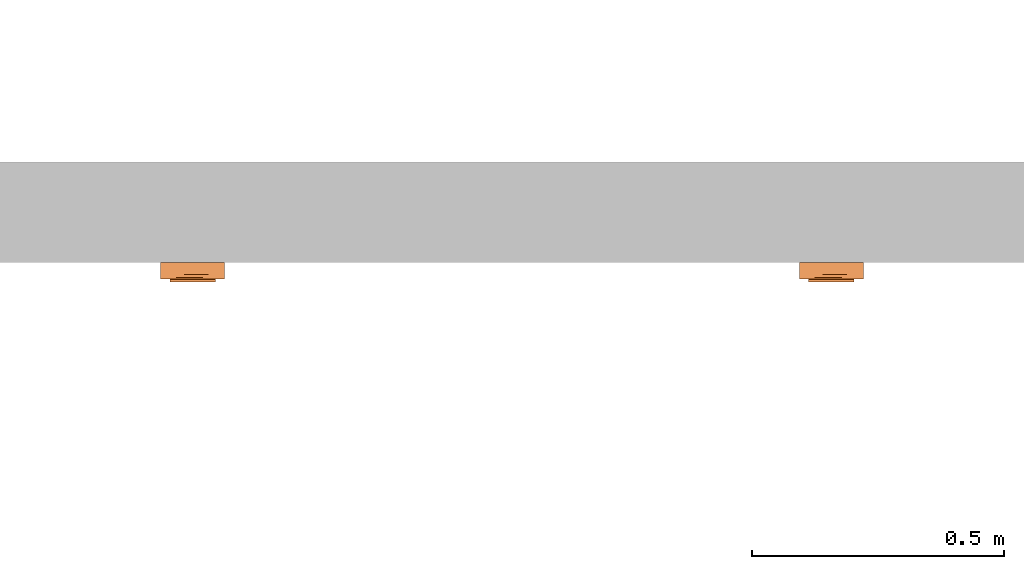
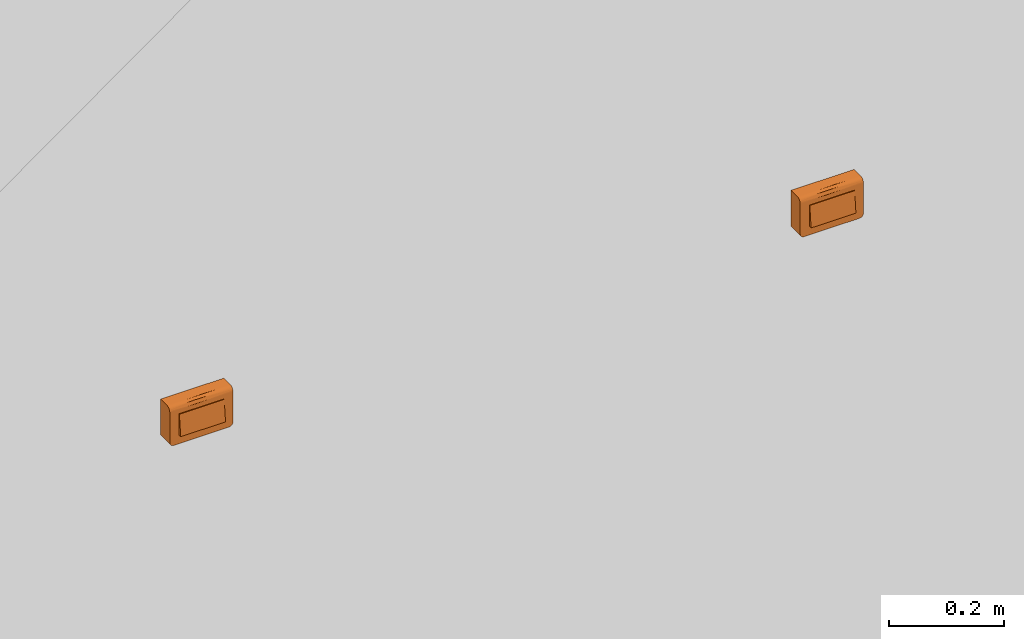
# One storey, part 136 of 197: 2 proxies.
"""IFC2X3 building model written with IfcOpenShell, lengths in metres."""

from ifc_helpers import new_model, entity, si_unit, converted_unit, direction, frame, origin, place, context, subcontext, project, spatial, faceted_brep, source, transform, mapped, material, material_list, type_object, type_shapes, element, save


model = new_model("IFC2X3")

# Units and contexts
model_context = context("Model", 3, precision=1e-05, world=origin(), true_north=direction((6.123031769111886e-17, 1.0)))
body_context = subcontext(model_context, "Body", "Model", "MODEL_VIEW")
ifc_project = project(units=[si_unit("LENGTHUNIT", "METRE"), converted_unit("PLANEANGLEUNIT", "DEGREE", entity("IfcPlaneAngleMeasure", 0.017453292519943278), si_unit("PLANEANGLEUNIT", "RADIAN"), dimensions=[0, 0, 0, 0, 0, 0, 0]), si_unit("AREAUNIT", "SQUARE_METRE")], contexts=[model_context])

# Site, building, storey
site_placement = place(None, origin())
site = spatial("IfcSite", under=ifc_project, at=site_placement, Name="Default", CompositionType="ELEMENT")
building_placement = place(site_placement, origin())
building = spatial("IfcBuilding", under=site, at=building_placement, CompositionType="ELEMENT")
storey_placement = place(building_placement, origin())
storey = spatial("IfcBuildingStorey", under=building, at=storey_placement, Name="Niveau 0", CompositionType="ELEMENT", Elevation=0.0)

# Proxies
ifc_material_1 = material(Name="BETCE-DOIGT-BLANC")
ifc_material_2 = material(Name="BETCE-CADRE-BLANC")
ifc_material_3 = material(Name="BETCE-ENJOLIVEUR-BLANC")
ifc_material_list = material_list([ifc_material_1, ifc_material_2, ifc_material_3])
building_element_proxy_type_1 = type_object("IfcBuildingElementProxyType", Name="Tableau commande 1x4 modules saillie:4 BP", PredefinedType="NOTDEFINED", material=ifc_material_list)
shared_shape_1 = source(origin(), body_context, "Body", "Brep", [
    faceted_brep([(-0.04499999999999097, -0.03350000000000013, 0.022499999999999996), (-0.04499999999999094, -0.038000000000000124, -0.022500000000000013), (-0.022500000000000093, -0.03799999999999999, -0.02249999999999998), (-0.02250000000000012, -0.0335, 0.022499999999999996), (-0.04499999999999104, -0.02299999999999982, -0.022500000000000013), (-0.04499999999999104, -0.02299999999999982, 0.022499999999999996), (-0.022500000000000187, -0.022999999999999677, 0.022499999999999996), (-0.022500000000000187, -0.022999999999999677, -0.022500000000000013)], [[[0, 1, 2, 3]], [[4, 5, 6, 7]], [[5, 4, 1, 0]], [[6, 5, 0, 3]], [[7, 6, 3, 2]], [[4, 7, 2, 1]]]),
    faceted_brep([(0.02250000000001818, -0.03349999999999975, 0.022499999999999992), (0.02250000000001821, -0.03799999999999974, -0.022500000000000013), (0.04500000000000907, -0.03799999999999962, -0.02250000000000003), (0.04500000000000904, -0.03349999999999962, 0.022499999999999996), (0.022500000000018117, -0.02299999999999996, -0.022500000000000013), (0.022500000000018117, -0.02299999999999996, 0.022499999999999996), (0.04500000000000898, -0.022999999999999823, 0.022499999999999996), (0.04500000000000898, -0.022999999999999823, -0.022500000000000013)], [[[0, 1, 2, 3]], [[4, 5, 6, 7]], [[5, 4, 1, 0]], [[6, 5, 0, 3]], [[7, 6, 3, 2]], [[4, 7, 2, 1]]]),
    faceted_brep([(0.0, -0.03349999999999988, 0.022499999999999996), (0.0, -0.03799999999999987, -0.022500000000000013), (0.022499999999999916, -0.03799999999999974, -0.022500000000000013), (0.022499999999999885, -0.03349999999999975, 0.022499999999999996), (0.0, -0.02299999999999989, -0.022500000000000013), (0.0, -0.02299999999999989, 0.022499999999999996), (0.022499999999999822, -0.02299999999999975, 0.022499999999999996), (0.022499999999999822, -0.02299999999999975, -0.022500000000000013)], [[[0, 1, 2, 3]], [[4, 5, 6, 7]], [[5, 4, 1, 0]], [[6, 5, 0, 3]], [[7, 6, 3, 2]], [[4, 7, 2, 1]]]),
    faceted_brep([(0.05550000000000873, -0.02299999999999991, -0.041000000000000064), (0.05757055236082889, -0.0229999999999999, -0.04072740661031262), (0.05950000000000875, -0.022999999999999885, -0.03992820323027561), (0.06115685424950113, -0.022999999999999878, -0.03865685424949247), (0.06242820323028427, -0.022999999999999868, -0.03700000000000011), (0.06322740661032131, -0.022999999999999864, -0.03507055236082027), (0.063500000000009, -0.02299999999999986, -0.033000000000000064), (0.06350000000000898, -0.02299999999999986, 0.04092306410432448), (-0.06349999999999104, -0.023000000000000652, 0.04092306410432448), (-0.06349999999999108, -0.023000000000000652, -0.032999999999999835), (-0.06322740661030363, -0.023000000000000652, -0.03507055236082), (-0.06242820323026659, -0.02300000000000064, -0.03699999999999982), (-0.06115685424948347, -0.023000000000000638, -0.0386568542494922), (-0.05949999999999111, -0.023000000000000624, -0.03992820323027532), (-0.05757055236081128, -0.023000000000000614, -0.040727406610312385), (-0.05549999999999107, -0.0230000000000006, -0.040999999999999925), (-0.05549999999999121, 0.0, -0.04099999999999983), (-0.05757055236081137, 0.0, -0.040727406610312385), (-0.05949999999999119, 0.0, -0.03992820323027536), (-0.061156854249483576, 0.0, -0.03865685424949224), (-0.06242820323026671, 0.0, -0.03699999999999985), (-0.06322740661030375, 0.0, -0.03507055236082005), (-0.06349999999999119, 0.0, -0.032999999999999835), (-0.06349999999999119, 0.0, 0.04092306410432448), (0.06350000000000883, 0.0, 0.04092306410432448), (0.06350000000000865, 0.0, -0.033), (0.0632274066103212, 0.0, -0.03507055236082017), (0.062428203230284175, 0.0, -0.037000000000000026), (0.06115685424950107, 0.0, -0.0386568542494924), (0.059500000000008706, 0.0, -0.039928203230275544), (0.05757055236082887, 0.0, -0.040727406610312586), (0.055500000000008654, 0.0, -0.040999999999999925)], [[[0, 1, 2, 3, 4, 5, 6, 7, 8, 9, 10, 11, 12, 13, 14, 15]], [[16, 17, 18, 19, 20, 21, 22, 23, 24, 25, 26, 27, 28, 29, 30, 31]], [[9, 8, 23, 22]], [[0, 15, 16, 31]], [[7, 6, 25, 24]], [[8, 7, 24, 23]], [[25, 6, 5, 26]], [[26, 5, 4, 27]], [[27, 4, 3, 28]], [[29, 2, 1, 30]], [[30, 1, 0, 31]], [[28, 3, 2, 29]], [[17, 16, 15, 14]], [[18, 17, 14, 13]], [[19, 18, 13, 12]], [[20, 19, 12, 11]], [[21, 20, 11, 10]], [[22, 21, 10, 9]]]),
    faceted_brep([(-0.022500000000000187, -0.02299999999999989, -0.022500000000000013), (-0.022500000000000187, -0.02299999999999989, 0.022499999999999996), (0.0, -0.02299999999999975, 0.022499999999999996), (0.0, -0.02299999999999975, -0.022500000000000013), (-0.022500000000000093, -0.03799999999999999, -0.0225), (-0.02250000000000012, -0.0335, 0.022499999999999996), (0.0, -0.03349999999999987, 0.022499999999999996), (0.0, -0.037999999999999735, -0.022500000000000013)], [[[0, 1, 2, 3]], [[1, 0, 4, 5]], [[2, 1, 5, 6]], [[3, 2, 6, 7]], [[0, 3, 7, 4]], [[5, 4, 7, 6]]]),
    faceted_brep([(0.06350000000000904, -0.031999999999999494, -0.03299999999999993), (0.06350000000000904, -0.031999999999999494, 0.0319999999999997), (0.04500000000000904, -0.031999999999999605, -0.022500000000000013), (0.05550000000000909, -0.03199999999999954, -0.040999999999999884), (0.05757055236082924, -0.03199999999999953, -0.040727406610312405), (0.05950000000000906, -0.03199999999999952, -0.039928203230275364), (0.06115685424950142, -0.03199999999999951, -0.038656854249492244), (0.06322740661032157, -0.031999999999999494, -0.03507055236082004), (0.04500000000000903, -0.031999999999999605, 0.022499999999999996), (-0.04499999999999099, -0.03200000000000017, 0.022499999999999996), (-0.011124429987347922, -0.032000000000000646, 0.031999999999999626), (-0.06349999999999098, -0.032000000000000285, 0.0319999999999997), (-0.04499999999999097, -0.03200000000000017, -0.022500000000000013), (-0.06349999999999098, -0.032000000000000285, -0.032999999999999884), (-0.05549999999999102, -0.03200000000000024, -0.040999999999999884), (-0.057570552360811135, -0.032000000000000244, -0.04072740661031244), (-0.05949999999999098, -0.03200000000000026, -0.0399282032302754), (-0.061156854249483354, -0.032000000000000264, -0.03865685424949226), (-0.06322740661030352, -0.03200000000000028, -0.03507055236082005), (-0.06242820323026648, -0.03200000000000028, -0.03699999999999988), (0.06242820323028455, -0.0319999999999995, -0.03699999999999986), (-0.06349999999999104, -0.023000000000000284, -0.032999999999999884), (-0.06349999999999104, -0.023000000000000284, 0.041000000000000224), (-0.04499999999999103, -0.023000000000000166, 0.022499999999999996), (-0.04499999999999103, -0.023000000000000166, -0.022500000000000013), (-0.05549999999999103, -0.023000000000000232, -0.040999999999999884), (-0.0575705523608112, -0.023000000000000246, -0.04072740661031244), (-0.059499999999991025, -0.023000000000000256, -0.0399282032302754), (-0.06322740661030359, -0.02300000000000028, -0.03507055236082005), (0.04500000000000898, -0.022999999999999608, 0.022499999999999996), (0.011124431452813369, -0.02299999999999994, 0.041000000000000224), (0.06350000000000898, -0.022999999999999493, 0.041000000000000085), (0.06350000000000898, -0.022999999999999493, -0.032999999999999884), (0.04500000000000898, -0.022999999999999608, -0.022500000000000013), (0.055500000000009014, -0.02299999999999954, -0.040999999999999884), (0.05757055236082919, -0.02299999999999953, -0.040727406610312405), (0.059500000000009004, -0.022999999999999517, -0.039928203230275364), (0.06322740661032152, -0.022999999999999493, -0.03507055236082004), (0.061156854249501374, -0.022999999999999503, -0.038656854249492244), (0.06242820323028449, -0.022999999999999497, -0.03699999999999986), (-0.0611568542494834, -0.023000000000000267, -0.03865685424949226), (-0.062428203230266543, -0.023000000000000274, -0.03699999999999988), (0.063500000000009, -0.02532937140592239, 0.04069333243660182), (0.06350000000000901, -0.027499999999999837, 0.039794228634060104), (0.06350000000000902, -0.029363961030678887, 0.03836396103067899), (0.06350000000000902, -0.030794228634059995, 0.03649999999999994), (0.06350000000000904, -0.03169333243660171, 0.03432937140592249), (-0.06349999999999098, -0.03169333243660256, 0.034329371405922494), (-0.063499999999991, -0.030794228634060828, 0.03649999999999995), (-0.063499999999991, -0.029363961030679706, 0.03836396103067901), (-0.06349999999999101, -0.027500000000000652, 0.039794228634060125), (-0.06349999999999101, -0.025329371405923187, 0.04069333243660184), (-0.010857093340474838, -0.02912089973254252, 0.03859807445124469)], [[[0, 1, 2]], [[3, 0, 2]], [[0, 3, 4]], [[0, 4, 5]], [[5, 6, 0]], [[7, 0, 6]], [[2, 1, 8]], [[1, 9, 8]], [[9, 1, 10]], [[9, 10, 11]], [[12, 9, 11]], [[13, 12, 11]], [[14, 12, 13]], [[14, 13, 15]], [[16, 15, 13]], [[13, 17, 16]], [[17, 13, 18]], [[17, 18, 19]], [[12, 14, 3]], [[2, 12, 3]], [[20, 7, 6]], [[21, 22, 23]], [[24, 21, 23]], [[25, 21, 24]], [[21, 25, 26]], [[21, 26, 27]], [[28, 21, 27]], [[22, 29, 23]], [[29, 22, 30]], [[29, 30, 31]], [[32, 29, 31]], [[33, 29, 32]], [[34, 33, 32]], [[34, 32, 35]], [[36, 35, 32]], [[36, 32, 37]], [[37, 38, 36]], [[38, 37, 39]], [[33, 34, 25]], [[24, 33, 25]], [[27, 40, 28]], [[41, 28, 40]], [[1, 0, 32, 31, 42, 43, 44, 45, 46]], [[37, 32, 0, 7]], [[39, 37, 7, 20]], [[38, 39, 20, 6]], [[36, 38, 6, 5]], [[35, 36, 5, 4]], [[34, 35, 4, 3]], [[25, 34, 3, 14]], [[26, 25, 14, 15]], [[27, 26, 15, 16]], [[40, 27, 16, 17]], [[41, 40, 17, 19]], [[28, 41, 19, 18]], [[21, 28, 18, 13]], [[22, 21, 13, 11, 47, 48, 49, 50, 51]], [[52, 10, 45]], [[47, 11, 10]], [[1, 46, 10]], [[44, 52, 45]], [[46, 45, 10]], [[50, 52, 51]], [[48, 47, 10]], [[30, 52, 43]], [[48, 52, 49]], [[42, 31, 30]], [[30, 22, 51]], [[48, 10, 52]], [[30, 43, 42]], [[44, 43, 52]], [[52, 50, 49]], [[52, 30, 51]], [[24, 23, 9, 12]], [[33, 24, 12, 2]], [[29, 33, 2, 8]], [[23, 29, 8, 9]]]),
])
type_shapes(building_element_proxy_type_1, [shared_shape_1])
proxy_1_placement = place(storey_placement, frame((-384.79277966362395, 116.01635778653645, 1.1)))
element("IfcBuildingElementProxy", 1, at=proxy_1_placement, inside=storey, type_object=building_element_proxy_type_1, material=ifc_material_list, Name="Tableau commande 1x4 modules saillie:4 BP", ObjectType="Tableau commande 1x4 modules saillie:4 BP", context=body_context, shape_type="MappedRepresentation", body=[
    mapped(shared_shape_1, transform((0.0, 0.0, 0.0), scale=1.0)),
])
building_element_proxy_type_2 = type_object("IfcBuildingElementProxyType", Name="Tableau commande 1x4 modules saillie:4 SA", PredefinedType="NOTDEFINED", material=ifc_material_list)
shared_shape_2 = source(origin(), body_context, "Body", "Brep", [
    faceted_brep([(-0.04499999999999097, -0.03350000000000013, 0.022499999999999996), (-0.04499999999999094, -0.038000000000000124, -0.022500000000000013), (-0.022500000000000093, -0.03799999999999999, -0.02249999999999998), (-0.02250000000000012, -0.0335, 0.022499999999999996), (-0.04499999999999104, -0.02299999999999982, -0.022500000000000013), (-0.04499999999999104, -0.02299999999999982, 0.022499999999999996), (-0.022500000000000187, -0.022999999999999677, 0.022499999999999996), (-0.022500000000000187, -0.022999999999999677, -0.022500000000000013)], [[[0, 1, 2, 3]], [[4, 5, 6, 7]], [[5, 4, 1, 0]], [[6, 5, 0, 3]], [[7, 6, 3, 2]], [[4, 7, 2, 1]]]),
    faceted_brep([(0.02250000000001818, -0.03349999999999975, 0.022499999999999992), (0.02250000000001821, -0.03799999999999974, -0.022500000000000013), (0.04500000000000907, -0.03799999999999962, -0.02250000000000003), (0.04500000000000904, -0.03349999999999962, 0.022499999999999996), (0.022500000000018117, -0.02299999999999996, -0.022500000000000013), (0.022500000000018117, -0.02299999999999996, 0.022499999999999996), (0.04500000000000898, -0.022999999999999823, 0.022499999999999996), (0.04500000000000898, -0.022999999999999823, -0.022500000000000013)], [[[0, 1, 2, 3]], [[4, 5, 6, 7]], [[5, 4, 1, 0]], [[6, 5, 0, 3]], [[7, 6, 3, 2]], [[4, 7, 2, 1]]]),
    faceted_brep([(0.0, -0.03349999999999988, 0.022499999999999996), (0.0, -0.03799999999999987, -0.022500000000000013), (0.022499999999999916, -0.03799999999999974, -0.022500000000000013), (0.022499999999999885, -0.03349999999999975, 0.022499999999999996), (0.0, -0.02299999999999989, -0.022500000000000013), (0.0, -0.02299999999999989, 0.022499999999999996), (0.022499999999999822, -0.02299999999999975, 0.022499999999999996), (0.022499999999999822, -0.02299999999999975, -0.022500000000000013)], [[[0, 1, 2, 3]], [[4, 5, 6, 7]], [[5, 4, 1, 0]], [[6, 5, 0, 3]], [[7, 6, 3, 2]], [[4, 7, 2, 1]]]),
    faceted_brep([(0.05550000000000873, -0.02299999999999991, -0.041000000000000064), (0.05757055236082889, -0.0229999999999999, -0.04072740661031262), (0.05950000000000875, -0.022999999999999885, -0.03992820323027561), (0.06115685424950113, -0.022999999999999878, -0.03865685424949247), (0.06242820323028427, -0.022999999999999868, -0.03700000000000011), (0.06322740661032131, -0.022999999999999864, -0.03507055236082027), (0.063500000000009, -0.02299999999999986, -0.033000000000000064), (0.06350000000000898, -0.02299999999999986, 0.04092306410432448), (-0.06349999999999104, -0.023000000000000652, 0.04092306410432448), (-0.06349999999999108, -0.023000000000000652, -0.032999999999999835), (-0.06322740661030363, -0.023000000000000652, -0.03507055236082), (-0.06242820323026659, -0.02300000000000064, -0.03699999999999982), (-0.06115685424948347, -0.023000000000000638, -0.0386568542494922), (-0.05949999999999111, -0.023000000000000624, -0.03992820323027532), (-0.05757055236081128, -0.023000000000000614, -0.040727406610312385), (-0.05549999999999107, -0.0230000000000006, -0.040999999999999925), (-0.05549999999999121, 0.0, -0.04099999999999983), (-0.05757055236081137, 0.0, -0.040727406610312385), (-0.05949999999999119, 0.0, -0.03992820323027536), (-0.061156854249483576, 0.0, -0.03865685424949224), (-0.06242820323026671, 0.0, -0.03699999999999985), (-0.06322740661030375, 0.0, -0.03507055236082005), (-0.06349999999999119, 0.0, -0.032999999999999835), (-0.06349999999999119, 0.0, 0.04092306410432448), (0.06350000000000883, 0.0, 0.04092306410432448), (0.06350000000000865, 0.0, -0.033), (0.0632274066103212, 0.0, -0.03507055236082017), (0.062428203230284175, 0.0, -0.037000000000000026), (0.06115685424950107, 0.0, -0.0386568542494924), (0.059500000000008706, 0.0, -0.039928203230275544), (0.05757055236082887, 0.0, -0.040727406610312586), (0.055500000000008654, 0.0, -0.040999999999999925)], [[[0, 1, 2, 3, 4, 5, 6, 7, 8, 9, 10, 11, 12, 13, 14, 15]], [[16, 17, 18, 19, 20, 21, 22, 23, 24, 25, 26, 27, 28, 29, 30, 31]], [[9, 8, 23, 22]], [[0, 15, 16, 31]], [[7, 6, 25, 24]], [[8, 7, 24, 23]], [[25, 6, 5, 26]], [[26, 5, 4, 27]], [[27, 4, 3, 28]], [[29, 2, 1, 30]], [[30, 1, 0, 31]], [[28, 3, 2, 29]], [[17, 16, 15, 14]], [[18, 17, 14, 13]], [[19, 18, 13, 12]], [[20, 19, 12, 11]], [[21, 20, 11, 10]], [[22, 21, 10, 9]]]),
    faceted_brep([(-0.022500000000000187, -0.02299999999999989, -0.022500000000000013), (-0.022500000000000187, -0.02299999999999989, 0.022499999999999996), (0.0, -0.02299999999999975, 0.022499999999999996), (0.0, -0.02299999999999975, -0.022500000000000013), (-0.022500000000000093, -0.03799999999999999, -0.0225), (-0.02250000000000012, -0.0335, 0.022499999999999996), (0.0, -0.03349999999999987, 0.022499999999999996), (0.0, -0.037999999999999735, -0.022500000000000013)], [[[0, 1, 2, 3]], [[1, 0, 4, 5]], [[2, 1, 5, 6]], [[3, 2, 6, 7]], [[0, 3, 7, 4]], [[5, 4, 7, 6]]]),
    faceted_brep([(0.06350000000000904, -0.031999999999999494, -0.03299999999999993), (0.06350000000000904, -0.031999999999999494, 0.0319999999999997), (0.04500000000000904, -0.031999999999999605, -0.022500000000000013), (0.05550000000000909, -0.03199999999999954, -0.040999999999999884), (0.05757055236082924, -0.03199999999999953, -0.040727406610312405), (0.05950000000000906, -0.03199999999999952, -0.039928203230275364), (0.06115685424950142, -0.03199999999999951, -0.038656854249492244), (0.06322740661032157, -0.031999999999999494, -0.03507055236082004), (0.04500000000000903, -0.031999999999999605, 0.022499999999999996), (-0.04499999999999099, -0.03200000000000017, 0.022499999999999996), (-0.011124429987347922, -0.032000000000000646, 0.031999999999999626), (-0.06349999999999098, -0.032000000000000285, 0.0319999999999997), (-0.04499999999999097, -0.03200000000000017, -0.022500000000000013), (-0.06349999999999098, -0.032000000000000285, -0.032999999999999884), (-0.05549999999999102, -0.03200000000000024, -0.040999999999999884), (-0.057570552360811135, -0.032000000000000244, -0.04072740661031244), (-0.05949999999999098, -0.03200000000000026, -0.0399282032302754), (-0.061156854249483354, -0.032000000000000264, -0.03865685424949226), (-0.06322740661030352, -0.03200000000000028, -0.03507055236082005), (-0.06242820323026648, -0.03200000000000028, -0.03699999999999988), (0.06242820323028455, -0.0319999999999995, -0.03699999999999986), (-0.06349999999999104, -0.023000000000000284, -0.032999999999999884), (-0.06349999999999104, -0.023000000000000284, 0.041000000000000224), (-0.04499999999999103, -0.023000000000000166, 0.022499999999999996), (-0.04499999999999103, -0.023000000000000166, -0.022500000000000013), (-0.05549999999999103, -0.023000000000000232, -0.040999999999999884), (-0.0575705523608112, -0.023000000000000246, -0.04072740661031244), (-0.059499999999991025, -0.023000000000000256, -0.0399282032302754), (-0.06322740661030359, -0.02300000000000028, -0.03507055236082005), (0.04500000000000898, -0.022999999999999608, 0.022499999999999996), (0.011124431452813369, -0.02299999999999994, 0.041000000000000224), (0.06350000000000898, -0.022999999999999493, 0.041000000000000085), (0.06350000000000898, -0.022999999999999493, -0.032999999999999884), (0.04500000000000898, -0.022999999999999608, -0.022500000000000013), (0.055500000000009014, -0.02299999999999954, -0.040999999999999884), (0.05757055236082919, -0.02299999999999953, -0.040727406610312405), (0.059500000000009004, -0.022999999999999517, -0.039928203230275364), (0.06322740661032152, -0.022999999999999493, -0.03507055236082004), (0.061156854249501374, -0.022999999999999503, -0.038656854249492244), (0.06242820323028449, -0.022999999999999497, -0.03699999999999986), (-0.0611568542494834, -0.023000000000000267, -0.03865685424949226), (-0.062428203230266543, -0.023000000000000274, -0.03699999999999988), (0.063500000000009, -0.02532937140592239, 0.04069333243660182), (0.06350000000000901, -0.027499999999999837, 0.039794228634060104), (0.06350000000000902, -0.029363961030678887, 0.03836396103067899), (0.06350000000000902, -0.030794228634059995, 0.03649999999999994), (0.06350000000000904, -0.03169333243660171, 0.03432937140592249), (-0.06349999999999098, -0.03169333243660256, 0.034329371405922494), (-0.063499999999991, -0.030794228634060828, 0.03649999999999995), (-0.063499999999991, -0.029363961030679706, 0.03836396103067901), (-0.06349999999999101, -0.027500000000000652, 0.039794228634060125), (-0.06349999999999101, -0.025329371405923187, 0.04069333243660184), (-0.010857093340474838, -0.02912089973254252, 0.03859807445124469)], [[[0, 1, 2]], [[3, 0, 2]], [[0, 3, 4]], [[0, 4, 5]], [[5, 6, 0]], [[7, 0, 6]], [[2, 1, 8]], [[1, 9, 8]], [[9, 1, 10]], [[9, 10, 11]], [[12, 9, 11]], [[13, 12, 11]], [[14, 12, 13]], [[14, 13, 15]], [[16, 15, 13]], [[13, 17, 16]], [[17, 13, 18]], [[17, 18, 19]], [[12, 14, 3]], [[2, 12, 3]], [[20, 7, 6]], [[21, 22, 23]], [[24, 21, 23]], [[25, 21, 24]], [[21, 25, 26]], [[21, 26, 27]], [[28, 21, 27]], [[22, 29, 23]], [[29, 22, 30]], [[29, 30, 31]], [[32, 29, 31]], [[33, 29, 32]], [[34, 33, 32]], [[34, 32, 35]], [[36, 35, 32]], [[36, 32, 37]], [[37, 38, 36]], [[38, 37, 39]], [[33, 34, 25]], [[24, 33, 25]], [[27, 40, 28]], [[41, 28, 40]], [[1, 0, 32, 31, 42, 43, 44, 45, 46]], [[37, 32, 0, 7]], [[39, 37, 7, 20]], [[38, 39, 20, 6]], [[36, 38, 6, 5]], [[35, 36, 5, 4]], [[34, 35, 4, 3]], [[25, 34, 3, 14]], [[26, 25, 14, 15]], [[27, 26, 15, 16]], [[40, 27, 16, 17]], [[41, 40, 17, 19]], [[28, 41, 19, 18]], [[21, 28, 18, 13]], [[22, 21, 13, 11, 47, 48, 49, 50, 51]], [[52, 10, 45]], [[47, 11, 10]], [[1, 46, 10]], [[44, 52, 45]], [[46, 45, 10]], [[50, 52, 51]], [[48, 47, 10]], [[30, 52, 43]], [[48, 52, 49]], [[42, 31, 30]], [[30, 22, 51]], [[48, 10, 52]], [[30, 43, 42]], [[44, 43, 52]], [[52, 50, 49]], [[52, 30, 51]], [[24, 23, 9, 12]], [[33, 24, 12, 2]], [[29, 33, 2, 8]], [[23, 29, 8, 9]]]),
])
type_shapes(building_element_proxy_type_2, [shared_shape_2])
proxy_2_placement = place(storey_placement, frame((-383.52677966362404, 116.01635778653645, 1.1)))
element("IfcBuildingElementProxy", 2, at=proxy_2_placement, inside=storey, type_object=building_element_proxy_type_2, material=ifc_material_list, Name="Tableau commande 1x4 modules saillie:4 SA", ObjectType="Tableau commande 1x4 modules saillie:4 SA", context=body_context, shape_type="MappedRepresentation", body=[
    mapped(shared_shape_2, transform((0.0, 0.0, 0.0), scale=1.0)),
])

save(model, "model.ifc")
